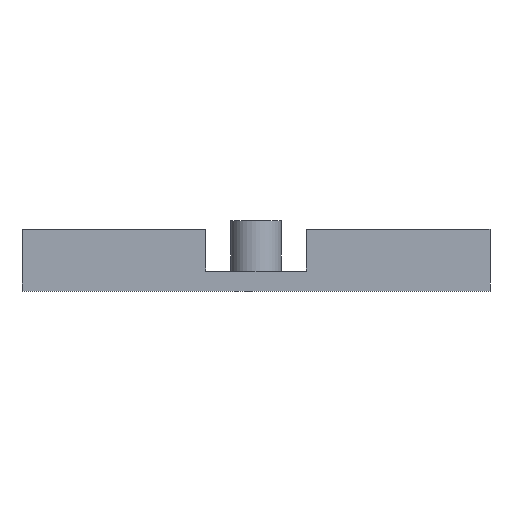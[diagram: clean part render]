
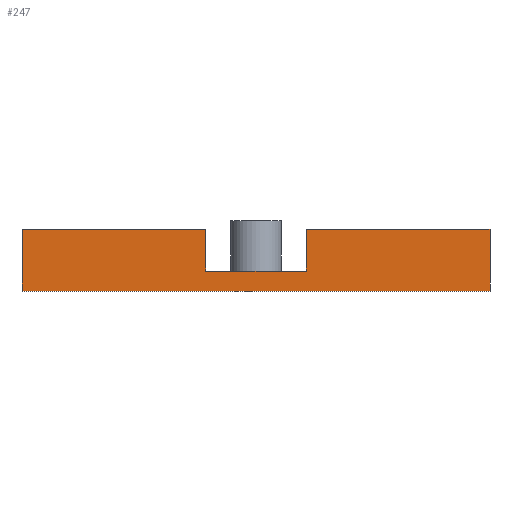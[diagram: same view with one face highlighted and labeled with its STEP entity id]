
A CAD part, front view. The second image highlights one B-rep face of the part: STEP entity #247.
In plain terms, the highlighted planar face has unit normal (0, -1, 0).
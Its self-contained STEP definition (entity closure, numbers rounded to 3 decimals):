
#21 = EDGE_CURVE('',#22,#24,#26,.T.);
#22 = VERTEX_POINT('',#23);
#23 = CARTESIAN_POINT('',(0.,0.,0.));
#24 = VERTEX_POINT('',#25);
#25 = CARTESIAN_POINT('',(0.,0.,7.4));
#26 = SURFACE_CURVE('',#27,(#31,#43),.PCURVE_S1.);
#27 = LINE('',#28,#29);
#28 = CARTESIAN_POINT('',(0.,0.,0.));
#29 = VECTOR('',#30,1.);
#30 = DIRECTION('',(0.,0.,1.));
#31 = PCURVE('',#32,#37);
#32 = PLANE('',#33);
#33 = AXIS2_PLACEMENT_3D('',#34,#35,#36);
#34 = CARTESIAN_POINT('',(0.,0.,0.));
#35 = DIRECTION('',(1.,0.,-0.));
#36 = DIRECTION('',(0.,0.,1.));
#37 = DEFINITIONAL_REPRESENTATION('',(#38),#42);
#38 = LINE('',#39,#40);
#39 = CARTESIAN_POINT('',(0.,0.));
#40 = VECTOR('',#41,1.);
#41 = DIRECTION('',(1.,0.));
#42 = ( GEOMETRIC_REPRESENTATION_CONTEXT(2) 
PARAMETRIC_REPRESENTATION_CONTEXT() REPRESENTATION_CONTEXT('2D SPACE',''
  ) );
#43 = PCURVE('',#44,#49);
#44 = PLANE('',#45);
#45 = AXIS2_PLACEMENT_3D('',#46,#47,#48);
#46 = CARTESIAN_POINT('',(0.,0.,0.));
#47 = DIRECTION('',(-0.,1.,0.));
#48 = DIRECTION('',(0.,0.,1.));
#49 = DEFINITIONAL_REPRESENTATION('',(#50),#54);
#50 = LINE('',#51,#52);
#51 = CARTESIAN_POINT('',(0.,0.));
#52 = VECTOR('',#53,1.);
#53 = DIRECTION('',(1.,0.));
#54 = ( GEOMETRIC_REPRESENTATION_CONTEXT(2) 
PARAMETRIC_REPRESENTATION_CONTEXT() REPRESENTATION_CONTEXT('2D SPACE',''
  ) );
#72 = PLANE('',#73);
#73 = AXIS2_PLACEMENT_3D('',#74,#75,#76);
#74 = CARTESIAN_POINT('',(0.,0.,0.));
#75 = DIRECTION('',(0.,0.,1.));
#76 = DIRECTION('',(1.,0.,-0.));
#183 = PLANE('',#184);
#184 = AXIS2_PLACEMENT_3D('',#185,#186,#187);
#185 = CARTESIAN_POINT('',(0.,0.,2.4));
#186 = DIRECTION('',(0.,0.,1.));
#187 = DIRECTION('',(1.,0.,-0.));
#236 = PLANE('',#237);
#237 = AXIS2_PLACEMENT_3D('',#238,#239,#240);
#238 = CARTESIAN_POINT('',(0.,0.,7.4));
#239 = DIRECTION('',(0.,0.,1.));
#240 = DIRECTION('',(1.,0.,-0.));
#247 = ADVANCED_FACE('',(#248),#44,.F.);
#248 = FACE_BOUND('',#249,.F.);
#249 = EDGE_LOOP('',(#250,#273,#274,#297,#324,#347,#374,#402));
#250 = ORIENTED_EDGE('',*,*,#251,.F.);
#251 = EDGE_CURVE('',#22,#252,#254,.T.);
#252 = VERTEX_POINT('',#253);
#253 = CARTESIAN_POINT('',(56.,0.,0.));
#254 = SURFACE_CURVE('',#255,(#259,#266),.PCURVE_S1.);
#255 = LINE('',#256,#257);
#256 = CARTESIAN_POINT('',(0.,0.,0.));
#257 = VECTOR('',#258,1.);
#258 = DIRECTION('',(1.,0.,-0.));
#259 = PCURVE('',#44,#260);
#260 = DEFINITIONAL_REPRESENTATION('',(#261),#265);
#261 = LINE('',#262,#263);
#262 = CARTESIAN_POINT('',(0.,0.));
#263 = VECTOR('',#264,1.);
#264 = DIRECTION('',(0.,1.));
#265 = ( GEOMETRIC_REPRESENTATION_CONTEXT(2) 
PARAMETRIC_REPRESENTATION_CONTEXT() REPRESENTATION_CONTEXT('2D SPACE',''
  ) );
#266 = PCURVE('',#72,#267);
#267 = DEFINITIONAL_REPRESENTATION('',(#268),#272);
#268 = LINE('',#269,#270);
#269 = CARTESIAN_POINT('',(0.,0.));
#270 = VECTOR('',#271,1.);
#271 = DIRECTION('',(1.,0.));
#272 = ( GEOMETRIC_REPRESENTATION_CONTEXT(2) 
PARAMETRIC_REPRESENTATION_CONTEXT() REPRESENTATION_CONTEXT('2D SPACE',''
  ) );
#273 = ORIENTED_EDGE('',*,*,#21,.T.);
#274 = ORIENTED_EDGE('',*,*,#275,.T.);
#275 = EDGE_CURVE('',#24,#276,#278,.T.);
#276 = VERTEX_POINT('',#277);
#277 = CARTESIAN_POINT('',(22.,0.,7.4));
#278 = SURFACE_CURVE('',#279,(#283,#290),.PCURVE_S1.);
#279 = LINE('',#280,#281);
#280 = CARTESIAN_POINT('',(0.,0.,7.4));
#281 = VECTOR('',#282,1.);
#282 = DIRECTION('',(1.,0.,-0.));
#283 = PCURVE('',#44,#284);
#284 = DEFINITIONAL_REPRESENTATION('',(#285),#289);
#285 = LINE('',#286,#287);
#286 = CARTESIAN_POINT('',(7.4,0.));
#287 = VECTOR('',#288,1.);
#288 = DIRECTION('',(0.,1.));
#289 = ( GEOMETRIC_REPRESENTATION_CONTEXT(2) 
PARAMETRIC_REPRESENTATION_CONTEXT() REPRESENTATION_CONTEXT('2D SPACE',''
  ) );
#290 = PCURVE('',#236,#291);
#291 = DEFINITIONAL_REPRESENTATION('',(#292),#296);
#292 = LINE('',#293,#294);
#293 = CARTESIAN_POINT('',(0.,0.));
#294 = VECTOR('',#295,1.);
#295 = DIRECTION('',(1.,0.));
#296 = ( GEOMETRIC_REPRESENTATION_CONTEXT(2) 
PARAMETRIC_REPRESENTATION_CONTEXT() REPRESENTATION_CONTEXT('2D SPACE',''
  ) );
#297 = ORIENTED_EDGE('',*,*,#298,.T.);
#298 = EDGE_CURVE('',#276,#299,#301,.T.);
#299 = VERTEX_POINT('',#300);
#300 = CARTESIAN_POINT('',(22.,0.,2.4));
#301 = SURFACE_CURVE('',#302,(#306,#313),.PCURVE_S1.);
#302 = LINE('',#303,#304);
#303 = CARTESIAN_POINT('',(22.,0.,2.4));
#304 = VECTOR('',#305,1.);
#305 = DIRECTION('',(-0.,0.,-1.));
#306 = PCURVE('',#44,#307);
#307 = DEFINITIONAL_REPRESENTATION('',(#308),#312);
#308 = LINE('',#309,#310);
#309 = CARTESIAN_POINT('',(2.4,22.));
#310 = VECTOR('',#311,1.);
#311 = DIRECTION('',(-1.,0.));
#312 = ( GEOMETRIC_REPRESENTATION_CONTEXT(2) 
PARAMETRIC_REPRESENTATION_CONTEXT() REPRESENTATION_CONTEXT('2D SPACE',''
  ) );
#313 = PCURVE('',#314,#319);
#314 = PLANE('',#315);
#315 = AXIS2_PLACEMENT_3D('',#316,#317,#318);
#316 = CARTESIAN_POINT('',(22.,-0.1,2.4));
#317 = DIRECTION('',(1.,0.,-0.));
#318 = DIRECTION('',(0.,0.,1.));
#319 = DEFINITIONAL_REPRESENTATION('',(#320),#323);
#320 = B_SPLINE_CURVE_WITH_KNOTS('',1,(#321,#322),.UNSPECIFIED.,.F.,.F.,
  (2,2),(-5.,0.),.PIECEWISE_BEZIER_KNOTS.);
#321 = CARTESIAN_POINT('',(5.,-0.1));
#322 = CARTESIAN_POINT('',(0.,-0.1));
#323 = ( GEOMETRIC_REPRESENTATION_CONTEXT(2) 
PARAMETRIC_REPRESENTATION_CONTEXT() REPRESENTATION_CONTEXT('2D SPACE',''
  ) );
#324 = ORIENTED_EDGE('',*,*,#325,.T.);
#325 = EDGE_CURVE('',#299,#326,#328,.T.);
#326 = VERTEX_POINT('',#327);
#327 = CARTESIAN_POINT('',(34.,0.,2.4));
#328 = SURFACE_CURVE('',#329,(#333,#340),.PCURVE_S1.);
#329 = LINE('',#330,#331);
#330 = CARTESIAN_POINT('',(0.,0.,2.4));
#331 = VECTOR('',#332,1.);
#332 = DIRECTION('',(1.,0.,-0.));
#333 = PCURVE('',#44,#334);
#334 = DEFINITIONAL_REPRESENTATION('',(#335),#339);
#335 = LINE('',#336,#337);
#336 = CARTESIAN_POINT('',(2.4,0.));
#337 = VECTOR('',#338,1.);
#338 = DIRECTION('',(0.,1.));
#339 = ( GEOMETRIC_REPRESENTATION_CONTEXT(2) 
PARAMETRIC_REPRESENTATION_CONTEXT() REPRESENTATION_CONTEXT('2D SPACE',''
  ) );
#340 = PCURVE('',#183,#341);
#341 = DEFINITIONAL_REPRESENTATION('',(#342),#346);
#342 = LINE('',#343,#344);
#343 = CARTESIAN_POINT('',(0.,0.));
#344 = VECTOR('',#345,1.);
#345 = DIRECTION('',(1.,0.));
#346 = ( GEOMETRIC_REPRESENTATION_CONTEXT(2) 
PARAMETRIC_REPRESENTATION_CONTEXT() REPRESENTATION_CONTEXT('2D SPACE',''
  ) );
#347 = ORIENTED_EDGE('',*,*,#348,.F.);
#348 = EDGE_CURVE('',#349,#326,#351,.T.);
#349 = VERTEX_POINT('',#350);
#350 = CARTESIAN_POINT('',(34.,0.,7.4));
#351 = SURFACE_CURVE('',#352,(#356,#363),.PCURVE_S1.);
#352 = LINE('',#353,#354);
#353 = CARTESIAN_POINT('',(34.,0.,2.4));
#354 = VECTOR('',#355,1.);
#355 = DIRECTION('',(-0.,0.,-1.));
#356 = PCURVE('',#44,#357);
#357 = DEFINITIONAL_REPRESENTATION('',(#358),#362);
#358 = LINE('',#359,#360);
#359 = CARTESIAN_POINT('',(2.4,34.));
#360 = VECTOR('',#361,1.);
#361 = DIRECTION('',(-1.,0.));
#362 = ( GEOMETRIC_REPRESENTATION_CONTEXT(2) 
PARAMETRIC_REPRESENTATION_CONTEXT() REPRESENTATION_CONTEXT('2D SPACE',''
  ) );
#363 = PCURVE('',#364,#369);
#364 = PLANE('',#365);
#365 = AXIS2_PLACEMENT_3D('',#366,#367,#368);
#366 = CARTESIAN_POINT('',(34.,-0.1,2.4));
#367 = DIRECTION('',(1.,0.,-0.));
#368 = DIRECTION('',(0.,0.,1.));
#369 = DEFINITIONAL_REPRESENTATION('',(#370),#373);
#370 = B_SPLINE_CURVE_WITH_KNOTS('',1,(#371,#372),.UNSPECIFIED.,.F.,.F.,
  (2,2),(-5.,0.),.PIECEWISE_BEZIER_KNOTS.);
#371 = CARTESIAN_POINT('',(5.,-0.1));
#372 = CARTESIAN_POINT('',(0.,-0.1));
#373 = ( GEOMETRIC_REPRESENTATION_CONTEXT(2) 
PARAMETRIC_REPRESENTATION_CONTEXT() REPRESENTATION_CONTEXT('2D SPACE',''
  ) );
#374 = ORIENTED_EDGE('',*,*,#375,.T.);
#375 = EDGE_CURVE('',#349,#376,#378,.T.);
#376 = VERTEX_POINT('',#377);
#377 = CARTESIAN_POINT('',(56.,0.,7.4));
#378 = SURFACE_CURVE('',#379,(#383,#390),.PCURVE_S1.);
#379 = LINE('',#380,#381);
#380 = CARTESIAN_POINT('',(0.,0.,7.4));
#381 = VECTOR('',#382,1.);
#382 = DIRECTION('',(1.,0.,-0.));
#383 = PCURVE('',#44,#384);
#384 = DEFINITIONAL_REPRESENTATION('',(#385),#389);
#385 = LINE('',#386,#387);
#386 = CARTESIAN_POINT('',(7.4,0.));
#387 = VECTOR('',#388,1.);
#388 = DIRECTION('',(0.,1.));
#389 = ( GEOMETRIC_REPRESENTATION_CONTEXT(2) 
PARAMETRIC_REPRESENTATION_CONTEXT() REPRESENTATION_CONTEXT('2D SPACE',''
  ) );
#390 = PCURVE('',#391,#396);
#391 = PLANE('',#392);
#392 = AXIS2_PLACEMENT_3D('',#393,#394,#395);
#393 = CARTESIAN_POINT('',(0.,0.,7.4));
#394 = DIRECTION('',(0.,0.,1.));
#395 = DIRECTION('',(1.,0.,-0.));
#396 = DEFINITIONAL_REPRESENTATION('',(#397),#401);
#397 = LINE('',#398,#399);
#398 = CARTESIAN_POINT('',(0.,0.));
#399 = VECTOR('',#400,1.);
#400 = DIRECTION('',(1.,0.));
#401 = ( GEOMETRIC_REPRESENTATION_CONTEXT(2) 
PARAMETRIC_REPRESENTATION_CONTEXT() REPRESENTATION_CONTEXT('2D SPACE',''
  ) );
#402 = ORIENTED_EDGE('',*,*,#403,.F.);
#403 = EDGE_CURVE('',#252,#376,#404,.T.);
#404 = SURFACE_CURVE('',#405,(#409,#416),.PCURVE_S1.);
#405 = LINE('',#406,#407);
#406 = CARTESIAN_POINT('',(56.,0.,0.));
#407 = VECTOR('',#408,1.);
#408 = DIRECTION('',(0.,0.,1.));
#409 = PCURVE('',#44,#410);
#410 = DEFINITIONAL_REPRESENTATION('',(#411),#415);
#411 = LINE('',#412,#413);
#412 = CARTESIAN_POINT('',(0.,56.));
#413 = VECTOR('',#414,1.);
#414 = DIRECTION('',(1.,0.));
#415 = ( GEOMETRIC_REPRESENTATION_CONTEXT(2) 
PARAMETRIC_REPRESENTATION_CONTEXT() REPRESENTATION_CONTEXT('2D SPACE',''
  ) );
#416 = PCURVE('',#417,#422);
#417 = PLANE('',#418);
#418 = AXIS2_PLACEMENT_3D('',#419,#420,#421);
#419 = CARTESIAN_POINT('',(56.,0.,0.));
#420 = DIRECTION('',(1.,0.,-0.));
#421 = DIRECTION('',(0.,0.,1.));
#422 = DEFINITIONAL_REPRESENTATION('',(#423),#427);
#423 = LINE('',#424,#425);
#424 = CARTESIAN_POINT('',(0.,0.));
#425 = VECTOR('',#426,1.);
#426 = DIRECTION('',(1.,0.));
#427 = ( GEOMETRIC_REPRESENTATION_CONTEXT(2) 
PARAMETRIC_REPRESENTATION_CONTEXT() REPRESENTATION_CONTEXT('2D SPACE',''
  ) );
